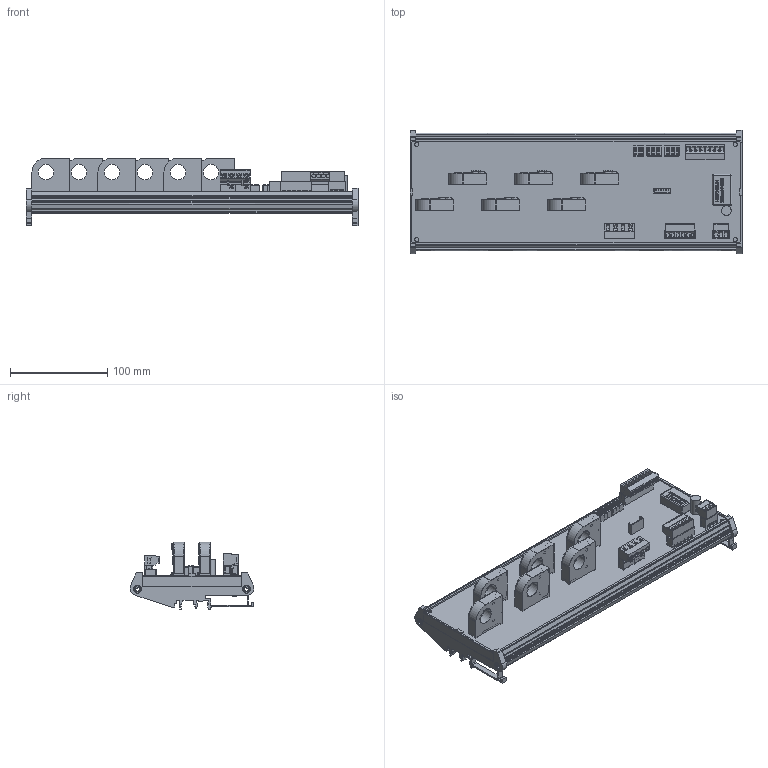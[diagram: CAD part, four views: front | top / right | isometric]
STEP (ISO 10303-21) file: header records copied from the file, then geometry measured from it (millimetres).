
FILE_DESCRIPTION(('FreeCAD Model'),'2;1');
FILE_NAME('C:/3D Files/Stringhe/ST0HS/ST0HS06x00/ST0HS06x00.step', '2022-06-01T16:31:53',('Author'),(''), 'Open CASCADE STEP processor 7.3','FreeCAD','Unknown');
FILE_SCHEMA(('AUTOMOTIVE_DESIGN { 1 0 10303 214 1 1 1 1 }'));
Length unit declared in the file: millimetre
Products named in the file (26): ST0HS06x00; AmpModu_6P_M; DipSwitch4; WRB2403ZP-6WR003; ELNA_470_uF_35_V; Mstb_03P_F; Mstb_03Pc_M; SH04-7,62; PV02-7,62-V-Pa; PV02-7,62-V-Pb; Mstb_8P_F; Mstb_8Pc_M; Hall_Sensor_45_A_CH_1; Hall_Sensor_45_A_CH_2; Hall_Sensor_45_A_CH_3; Hall_Sensor_45_A_CH_4; Hall_Sensor_45_A_CH_5; Hall_Sensor_45_A_CH_6; Profilo_342x128; Stampato_338_x_108; DipSwitch005; DipSwitch007; DipSwitch008; DipSwitch006; Mstb_06Pc_M; Mstb_06P_F
Assembly tree (25 placements, depth 2):
  ST0HS06x00
    AmpModu_6P_M
    DipSwitch4
    WRB2403ZP-6WR003
    ELNA_470_uF_35_V
    Mstb_03P_F
    Mstb_03Pc_M
    SH04-7,62
    PV02-7,62-V-Pa
    PV02-7,62-V-Pb
    Mstb_8P_F
    Mstb_8Pc_M
    Hall_Sensor_45_A_CH_1
    Hall_Sensor_45_A_CH_2
    Hall_Sensor_45_A_CH_3
    Hall_Sensor_45_A_CH_4
    Hall_Sensor_45_A_CH_5
    Hall_Sensor_45_A_CH_6
    Profilo_342x128
    Stampato_338_x_108
    DipSwitch005
    DipSwitch007
    DipSwitch008
    DipSwitch006
    Mstb_06Pc_M
    Mstb_06P_F
Bounding box: 342 x 127.59 x 69.79 mm (x, y, z)
Volume: 249257.9 mm3; surface area: 329382.1 mm2
Topology: 33 solids, 54 shells, 4890 faces, 13732 edges, 10882 vertices
Faces by surface type: plane 3881, cylinder 644, bspline 219, cone 59, torus 56, sphere 28, extrusion 3
Full cylindrical faces by diameter (mm): 0.75 x52, 1 x10, 1.5 x8, 1.6 x13, 3.8 x4, 4 x25, 7.9 x4, 10 x1
Entity records: 366892 total; most frequent: CARTESIAN_POINT 78809, DIRECTION 46082, VECTOR 32196, LINE 32193, ORIENTED_EDGE 25868, PCURVE 25868, DEFINITIONAL_REPRESENTATION 25868, EDGE_CURVE 13140
